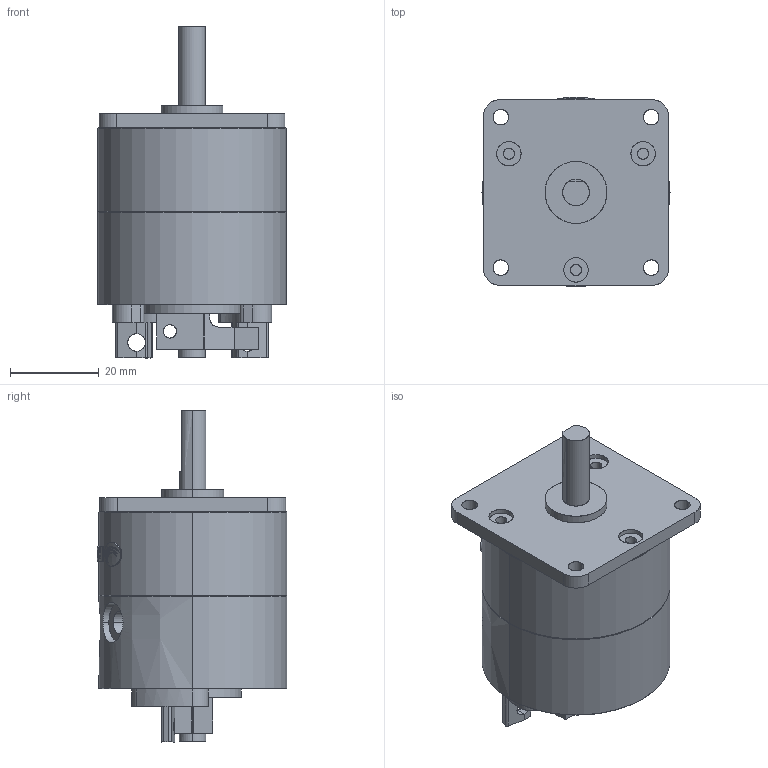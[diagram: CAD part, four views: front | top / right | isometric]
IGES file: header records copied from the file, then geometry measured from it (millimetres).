
Start section: SolidWorks IGES file using analytic representation for surfaces
Global section: file name: C:\Users\Chieh_Lu\Dropbox\¤u§@«Ç\PRO\PROA10S\PROA10S-#-#\PROA10S-#-#-P.IGS; native system: SolidWorks 2014; preprocessor: SolidWorks 2014; author: Chieh_Lu; date: 150731.005808; units: millimetre
Bounding box: 42.5 x 42.8 x 75 mm (x, y, z)
Surface area: 21583.8 mm2 (no closed solid volume)
Topology: 0 solids, 0 shells, 384 faces, 6388 edges, 6378 vertices
Faces by surface type: revolution 208, bspline 176
